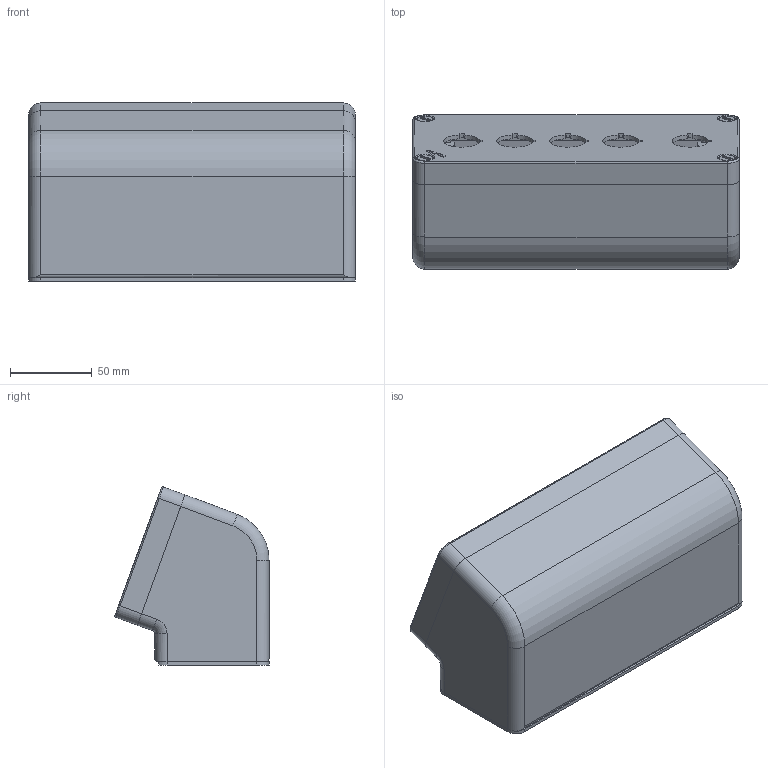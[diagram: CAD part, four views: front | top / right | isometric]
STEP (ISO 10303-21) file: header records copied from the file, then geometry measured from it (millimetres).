
FILE_DESCRIPTION (( 'STEP AP214' ), '1' );
FILE_NAME ('040L0820-8EP5LC.STEP', '2018-10-03T09:10:25', ( '' ), ( '' ), 'SwSTEP 2.0', 'SolidWorks 2013', '' );
FILE_SCHEMA (( 'AUTOMOTIVE_DESIGN' ));
Length unit declared in the file: millimetre
Products named in the file (1): 040L0820-8EP5LC
Bounding box: 200 x 94.41 x 109.11 mm (x, y, z)
Volume: 354657 mm3; surface area: 191470.4 mm2
Topology: 7 solids, 7 shells, 628 faces, 1616 edges, 1028 vertices
Faces by surface type: cylinder 282, plane 264, torus 80, bspline 2
Entity records: 25745 total; most frequent: CARTESIAN_POINT 3808, DIRECTION 3391, ORIENTED_EDGE 3232, EDGE_CURVE 1616, AXIS2_PLACEMENT_3D 1232, VERTEX_POINT 1028, LINE 927, VECTOR 927
